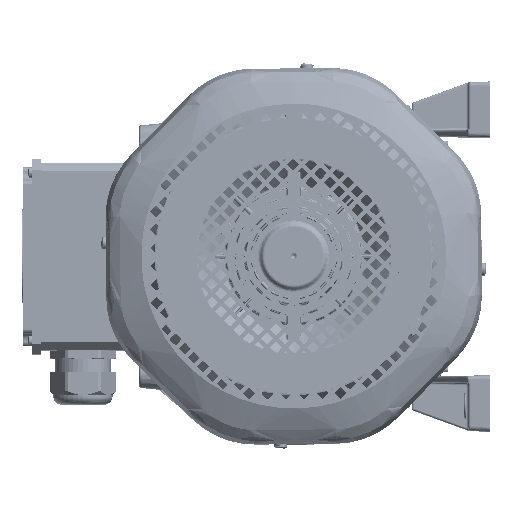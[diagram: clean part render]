
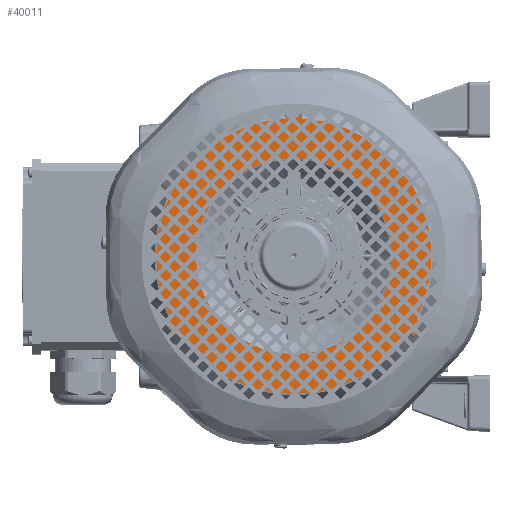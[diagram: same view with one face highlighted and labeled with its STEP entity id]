
A CAD part, top view. The second image highlights one B-rep face of the part: STEP entity #40011.
In plain terms, the highlighted planar face has unit normal (0, 0, 1).
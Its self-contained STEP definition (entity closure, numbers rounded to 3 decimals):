
#10607=FACE_BOUND('',#73867,.T.);
#10608=FACE_BOUND('',#73868,.T.);
#26835=CIRCLE('',#257591,90.828);
#26844=CIRCLE('',#257603,127.845);
#26861=CIRCLE('',#257628,127.845);
#26862=CIRCLE('',#257629,127.845);
#26877=CIRCLE('',#257652,127.845);
#40011=ADVANCED_FACE('',(#10607,#10608),#50098,.T.);
#50098=PLANE('',#257654);
#73867=EDGE_LOOP('',(#148108));
#73868=EDGE_LOOP('',(#148109,#148110,#148111,#148112,#148113,#148114,#148115,
#148116,#148117,#148118,#148119,#148120,#148121));
#90962=LINE('',#423167,#105093);
#90969=LINE('',#423483,#105100);
#90970=LINE('',#423524,#105101);
#90973=LINE('',#423626,#105104);
#90979=LINE('',#424291,#105110);
#90980=LINE('',#424332,#105111);
#90983=LINE('',#424434,#105114);
#90984=LINE('',#425013,#105115);
#90985=LINE('',#425015,#105116);
#105093=VECTOR('',#305959,1.);
#105100=VECTOR('',#305996,1.);
#105101=VECTOR('',#306003,1.);
#105104=VECTOR('',#306018,1.);
#105110=VECTOR('',#306058,1.);
#105111=VECTOR('',#306065,1.);
#105114=VECTOR('',#306080,1.);
#105115=VECTOR('',#306099,1.);
#105116=VECTOR('',#306100,1.);
#148108=ORIENTED_EDGE('',*,*,#221731,.T.);
#148109=ORIENTED_EDGE('',*,*,#221873,.T.);
#148110=ORIENTED_EDGE('',*,*,#221874,.T.);
#148111=ORIENTED_EDGE('',*,*,#221869,.T.);
#148112=ORIENTED_EDGE('',*,*,#221830,.T.);
#148113=ORIENTED_EDGE('',*,*,#221836,.T.);
#148114=ORIENTED_EDGE('',*,*,#221849,.T.);
#148115=ORIENTED_EDGE('',*,*,#221815,.T.);
#148116=ORIENTED_EDGE('',*,*,#221814,.T.);
#148117=ORIENTED_EDGE('',*,*,#221772,.T.);
#148118=ORIENTED_EDGE('',*,*,#221778,.T.);
#148119=ORIENTED_EDGE('',*,*,#221791,.T.);
#148120=ORIENTED_EDGE('',*,*,#221757,.T.);
#148121=ORIENTED_EDGE('',*,*,#221739,.T.);
#193452=VERTEX_POINT('',#423099);
#193458=VERTEX_POINT('',#423141);
#193459=VERTEX_POINT('',#423166);
#193470=VERTEX_POINT('',#423358);
#193481=VERTEX_POINT('',#423482);
#193482=VERTEX_POINT('',#423484);
#193485=VERTEX_POINT('',#423522);
#193503=VERTEX_POINT('',#424164);
#193504=VERTEX_POINT('',#424166);
#193515=VERTEX_POINT('',#424290);
#193516=VERTEX_POINT('',#424292);
#193519=VERTEX_POINT('',#424330);
#193534=VERTEX_POINT('',#424955);
#193537=VERTEX_POINT('',#425014);
#221731=EDGE_CURVE('',#193452,#193452,#26835,.T.);
#221739=EDGE_CURVE('',#193458,#193459,#90962,.T.);
#221757=EDGE_CURVE('',#193470,#193458,#26844,.T.);
#221772=EDGE_CURVE('',#193482,#193481,#90969,.T.);
#221778=EDGE_CURVE('',#193481,#193485,#90970,.T.);
#221791=EDGE_CURVE('',#193485,#193470,#90973,.T.);
#221814=EDGE_CURVE('',#193503,#193482,#26861,.T.);
#221815=EDGE_CURVE('',#193504,#193503,#26862,.T.);
#221830=EDGE_CURVE('',#193516,#193515,#90979,.T.);
#221836=EDGE_CURVE('',#193515,#193519,#90980,.T.);
#221849=EDGE_CURVE('',#193519,#193504,#90983,.T.);
#221869=EDGE_CURVE('',#193534,#193516,#26877,.T.);
#221873=EDGE_CURVE('',#193459,#193537,#90984,.T.);
#221874=EDGE_CURVE('',#193537,#193534,#90985,.T.);
#257591=AXIS2_PLACEMENT_3D('',#423098,#305949,#305950);
#257603=AXIS2_PLACEMENT_3D('',#423357,#305977,#305978);
#257628=AXIS2_PLACEMENT_3D('',#424163,#306037,#306038);
#257629=AXIS2_PLACEMENT_3D('',#424165,#306039,#306040);
#257652=AXIS2_PLACEMENT_3D('',#424954,#306095,#306096);
#257654=AXIS2_PLACEMENT_3D('',#425016,#306101,#306102);
#305949=DIRECTION('',(0.,0.,-1.));
#305950=DIRECTION('',(-1.,0.,0.));
#305959=DIRECTION('',(0.866,-0.5,0.));
#305977=DIRECTION('',(0.,0.,1.));
#305978=DIRECTION('',(-0.839,-0.544,0.));
#305996=DIRECTION('',(-0.866,-0.5,0.));
#306003=DIRECTION('',(0.5,-0.866,0.));
#306018=DIRECTION('',(0.866,0.5,0.));
#306037=DIRECTION('',(0.,0.,1.));
#306038=DIRECTION('',(-1.,0.,0.));
#306039=DIRECTION('',(0.,0.,1.));
#306040=DIRECTION('',(-0.051,0.999,0.));
#306058=DIRECTION('',(0.,1.,0.));
#306065=DIRECTION('',(-1.,0.,0.));
#306080=DIRECTION('',(0.,-1.,0.));
#306095=DIRECTION('',(0.,0.,1.));
#306096=DIRECTION('',(0.89,-0.455,0.));
#306099=DIRECTION('',(0.5,0.866,0.));
#306100=DIRECTION('',(-0.866,0.5,0.));
#306101=DIRECTION('',(0.,0.,1.));
#306102=DIRECTION('',(0.,1.,0.));
#423098=CARTESIAN_POINT('',(0.,0.,
460.));
#423099=CARTESIAN_POINT('',(-90.828,0.,460.));
#423141=CARTESIAN_POINT('',(106.746,-70.354,460.));
#423166=CARTESIAN_POINT('',(111.403,-73.043,460.));
#423167=CARTESIAN_POINT('',(106.746,-70.354,460.));
#423357=CARTESIAN_POINT('',(0.,0.,
460.));
#423358=CARTESIAN_POINT('',(-107.299,-69.508,460.));
#423482=CARTESIAN_POINT('',(-118.958,-59.956,460.));
#423483=CARTESIAN_POINT('',(-114.302,-57.267,460.));
#423484=CARTESIAN_POINT('',(-114.302,-57.267,460.));
#423522=CARTESIAN_POINT('',(-111.907,-72.169,460.));
#423524=CARTESIAN_POINT('',(-118.958,-59.956,460.));
#423626=CARTESIAN_POINT('',(-111.907,-72.169,460.));
#424163=CARTESIAN_POINT('',(0.,0.,
460.));
#424164=CARTESIAN_POINT('',(-127.845,0.,460.));
#424165=CARTESIAN_POINT('',(0.,0.,
460.));
#424166=CARTESIAN_POINT('',(-6.546,127.678,460.));
#424290=CARTESIAN_POINT('',(7.556,132.999,460.));
#424291=CARTESIAN_POINT('',(7.556,127.622,460.));
#424292=CARTESIAN_POINT('',(7.556,127.622,460.));
#424330=CARTESIAN_POINT('',(-6.546,132.999,460.));
#424332=CARTESIAN_POINT('',(7.556,132.999,460.));
#424434=CARTESIAN_POINT('',(-6.546,132.999,460.));
#424954=CARTESIAN_POINT('',(0.,0.,460.));
#424955=CARTESIAN_POINT('',(113.845,-58.17,460.));
#425013=CARTESIAN_POINT('',(111.403,-73.043,460.));
#425014=CARTESIAN_POINT('',(118.454,-60.83,460.));
#425015=CARTESIAN_POINT('',(118.454,-60.83,460.));
#425016=CARTESIAN_POINT('',(140.83,-140.83,460.));
